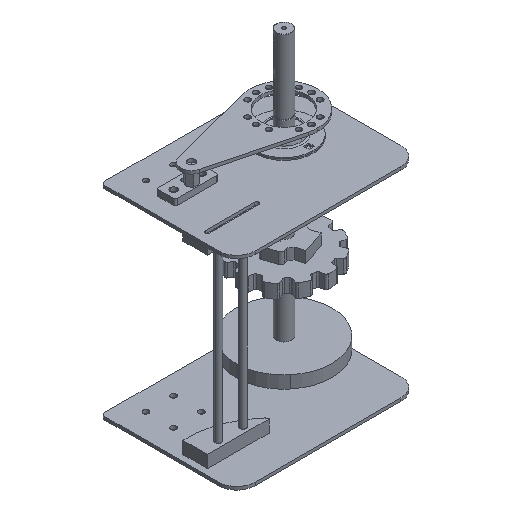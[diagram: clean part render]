
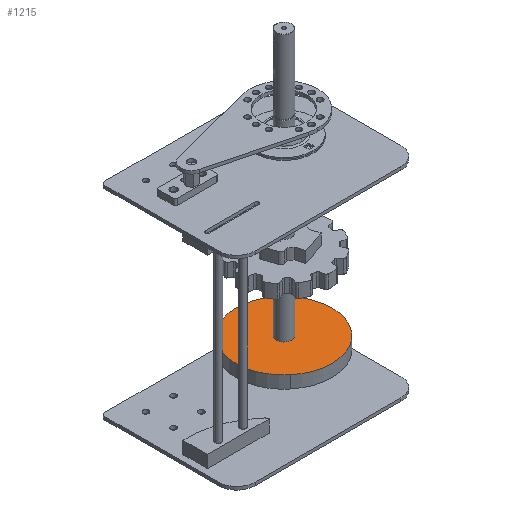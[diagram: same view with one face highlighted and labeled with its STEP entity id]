
A CAD part, isometric view. The second image highlights one B-rep face of the part: STEP entity #1215.
In plain terms, the highlighted planar face has unit normal (0, 0, 1) as drawn and (0, 1, 0) by its records, which use the part's own axes.
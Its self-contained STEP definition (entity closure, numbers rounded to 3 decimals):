
#27 = VERTEX_POINT ( 'NONE', #1686 ) ;
#67 = EDGE_CURVE ( 'NONE', #27, #13859, #1825, .T. ) ;
#74 = VERTEX_POINT ( 'NONE', #1816 ) ;
#94 = VERTEX_POINT ( 'NONE', #1877 ) ;
#1026 = ORIENTED_EDGE ( 'NONE', *, *, #1348, .T. ) ;
#1030 = EDGE_LOOP ( 'NONE', ( #1187, #1026 ) ) ;
#1183 = EDGE_CURVE ( 'NONE', #94, #74, #3907, .T. ) ;
#1185 = EDGE_LOOP ( 'NONE', ( #1189, #1369 ) ) ;
#1187 = ORIENTED_EDGE ( 'NONE', *, *, #1183, .T. ) ;
#1188 = EDGE_CURVE ( 'NONE', #13859, #27, #3917, .T. ) ;
#1189 = ORIENTED_EDGE ( 'NONE', *, *, #67, .F. ) ;
#1215 = ADVANCED_FACE ( 'NONE', ( #3929, #3990 ), #3949, .T. ) ;
#1348 = EDGE_CURVE ( 'NONE', #74, #94, #4142, .T. ) ;
#1369 = ORIENTED_EDGE ( 'NONE', *, *, #1188, .F. ) ;
#1686 = CARTESIAN_POINT ( 'NONE',  ( 0., 20., -12.55 ) ) ;
#1816 = CARTESIAN_POINT ( 'NONE',  ( 0., 20., 78. ) ) ;
#1819 = DIRECTION ( 'NONE',  ( 0., 0., 1. ) ) ;
#1820 = DIRECTION ( 'NONE',  ( 0., 1., 0. ) ) ;
#1821 = CARTESIAN_POINT ( 'NONE',  ( 0., 20., 0. ) ) ;
#1822 = AXIS2_PLACEMENT_3D ( 'NONE', #1821, #1820, #1819 ) ;
#1825 = CIRCLE ( 'NONE', #1822, 12.55 ) ;
#1877 = CARTESIAN_POINT ( 'NONE',  ( 0., 20., -78. ) ) ;
#3899 = DIRECTION ( 'NONE',  ( 0., 0., 1. ) ) ;
#3900 = DIRECTION ( 'NONE',  ( 0., 1., 0. ) ) ;
#3901 = AXIS2_PLACEMENT_3D ( 'NONE', #3916, #3900, #3899 ) ;
#3904 = DIRECTION ( 'NONE',  ( 0., 0., 1. ) ) ;
#3905 = DIRECTION ( 'NONE',  ( 0., 1., 0. ) ) ;
#3906 = AXIS2_PLACEMENT_3D ( 'NONE', #3915, #3905, #3904 ) ;
#3907 = CIRCLE ( 'NONE', #3906, 78. ) ;
#3915 = CARTESIAN_POINT ( 'NONE',  ( 0., 20., 0. ) ) ;
#3916 = CARTESIAN_POINT ( 'NONE',  ( 0., 20., 0. ) ) ;
#3917 = CIRCLE ( 'NONE', #3901, 12.55 ) ;
#3929 = FACE_OUTER_BOUND ( 'NONE', #1030, .T. ) ;
#3949 = PLANE ( 'NONE',  #3950 ) ;
#3950 = AXIS2_PLACEMENT_3D ( 'NONE', #3991, #3981, #3980 ) ;
#3980 = DIRECTION ( 'NONE',  ( 0., 0., 1. ) ) ;
#3981 = DIRECTION ( 'NONE',  ( 0., 1., 0. ) ) ;
#3990 = FACE_BOUND ( 'NONE', #1185, .T. ) ;
#3991 = CARTESIAN_POINT ( 'NONE',  ( 0., 20., 0. ) ) ;
#4137 = CARTESIAN_POINT ( 'NONE',  ( 0., 20., 0. ) ) ;
#4142 = CIRCLE ( 'NONE', #4189, 78. ) ;
#4179 = DIRECTION ( 'NONE',  ( 0., 0., 1. ) ) ;
#4185 = DIRECTION ( 'NONE',  ( 0., 1., 0. ) ) ;
#4189 = AXIS2_PLACEMENT_3D ( 'NONE', #4137, #4185, #4179 ) ;
#10042 = CARTESIAN_POINT ( 'NONE',  ( 0., 20., 12.55 ) ) ;
#13859 = VERTEX_POINT ( 'NONE', #10042 ) ;
